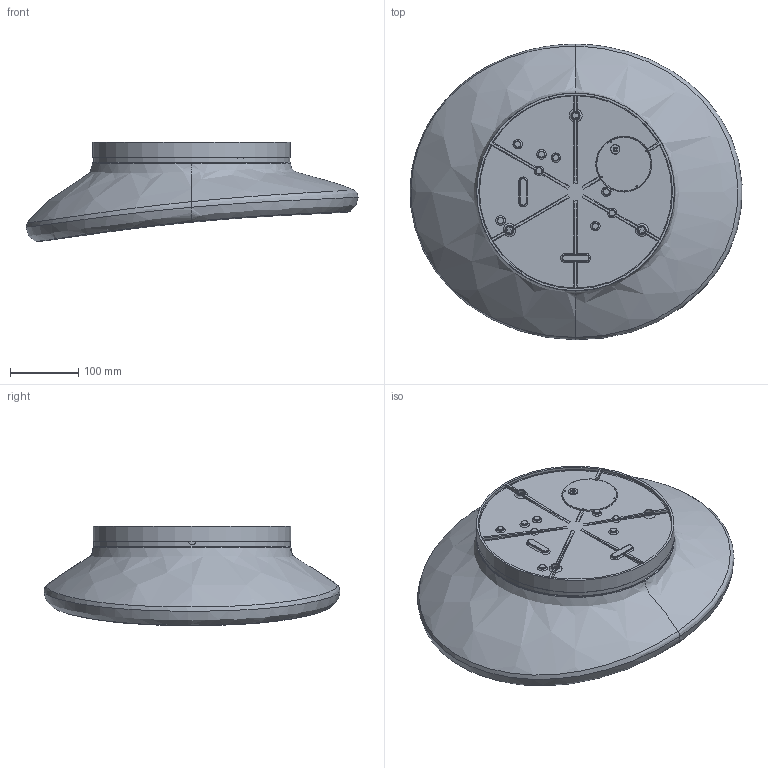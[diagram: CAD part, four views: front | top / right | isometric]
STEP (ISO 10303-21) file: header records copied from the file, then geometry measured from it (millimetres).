
FILE_DESCRIPTION( ( 'Unknown' ), '1' );
FILE_NAME( 'U:/ARCHIVIO TECNICO/ARCHIVIO 3D/7786.stp', 'Unknown', ( 'Unknown' ), ( 'Unknown' ), 'PSStep 17.0.49', 'Unknown', ' ' );
FILE_SCHEMA( ( 'AUTOMOTIVE_DESIGN { 1 0 10303 214 1 1 1 1 }' ) );
Length unit declared in the file: millimetre
Products named in the file (5): Assem1; O2034-9; 103000005542; 061000181358-oa0; 061000142359
Assembly tree (4 placements, depth 2):
  Assem1
    O2034-9
    103000005542
    061000181358-oa0
    061000142359
Bounding box: 486.85 x 433.51 x 145.54 mm (x, y, z)
Volume: 1399814 mm3; surface area: 904126.3 mm2
Topology: 4 solids, 4 shells, 682 faces, 1663 edges, 962 vertices
Faces by surface type: bspline 180, cylinder 178, plane 144, torus 84, cone 47, sphere 34, offset 15
Full cylindrical faces by diameter (mm): 1.8 x2, 2 x9, 2.2 x4, 2.5 x4, 4.5 x2, 5 x1, 10 x7, 13 x7, 14 x1, 62.9 x1, 82 x1, 284 x1, 288 x1, 290 x1
Entity records: 80179 total; most frequent: CARTESIAN_POINT 60972, ORIENTED_EDGE 2824, DIRECTION 2699, EDGE_CURVE 1412, AXIS2_PLACEMENT_3D 1176, VERTEX_POINT 900, EDGE_LOOP 835, FACE_OUTER_BOUND 764
